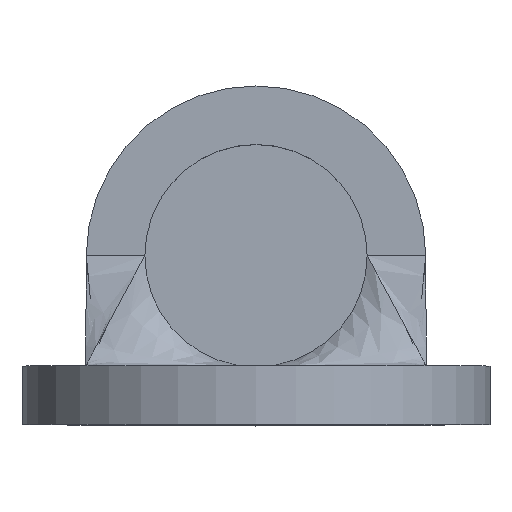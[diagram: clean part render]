
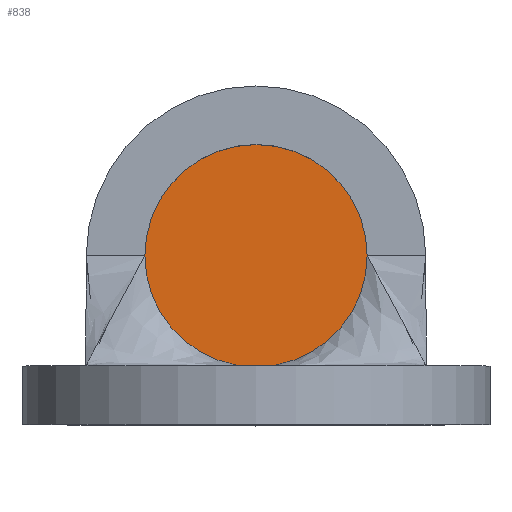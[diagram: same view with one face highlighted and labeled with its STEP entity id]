
A CAD part, top view. The second image highlights one B-rep face of the part: STEP entity #838.
In plain terms, the highlighted planar face has unit normal (0, 0, 1).
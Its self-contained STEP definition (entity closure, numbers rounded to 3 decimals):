
#228=CARTESIAN_POINT('',(0.,2.87,-8.14));
#229=DIRECTION('',(0.,0.,1.));
#230=DIRECTION('',(0.,-1.,0.));
#231=AXIS2_PLACEMENT_3D('',#228,#229,#230);
#242=CARTESIAN_POINT('',(0.,2.87,-8.14));
#243=DIRECTION('',(0.,0.,-1.));
#244=DIRECTION('',(0.,-1.,0.));
#245=AXIS2_PLACEMENT_3D('',#242,#243,#244);
#277=CARTESIAN_POINT('',(0.,4.75,-8.14));
#279=VERTEX_POINT('',#277);
#281=CARTESIAN_POINT('',(0.,0.99,-8.14));
#282=VERTEX_POINT('',#281);
#829=CARTESIAN_POINT('',(0.,2.87,-8.14));
#830=DIRECTION('',(0.,0.,-1.));
#831=DIRECTION('',(0.,-1.,0.));
#832=AXIS2_PLACEMENT_3D('',#829,#830,#831);
#833=PLANE('',#832);
#834=ORIENTED_EDGE('',*,*,#807,.F.);
#835=ORIENTED_EDGE('',*,*,#823,.T.);
#836=EDGE_LOOP('',(#834,#835));
#837=FACE_OUTER_BOUND('',#836,.F.);
#232=CIRCLE('',#231,1.88);
#246=CIRCLE('',#245,1.88);
#807=EDGE_CURVE('',#282,#279,#232,.T.);
#823=EDGE_CURVE('',#282,#279,#246,.T.);
#838=ADVANCED_FACE('',(#837),#833,.F.);
